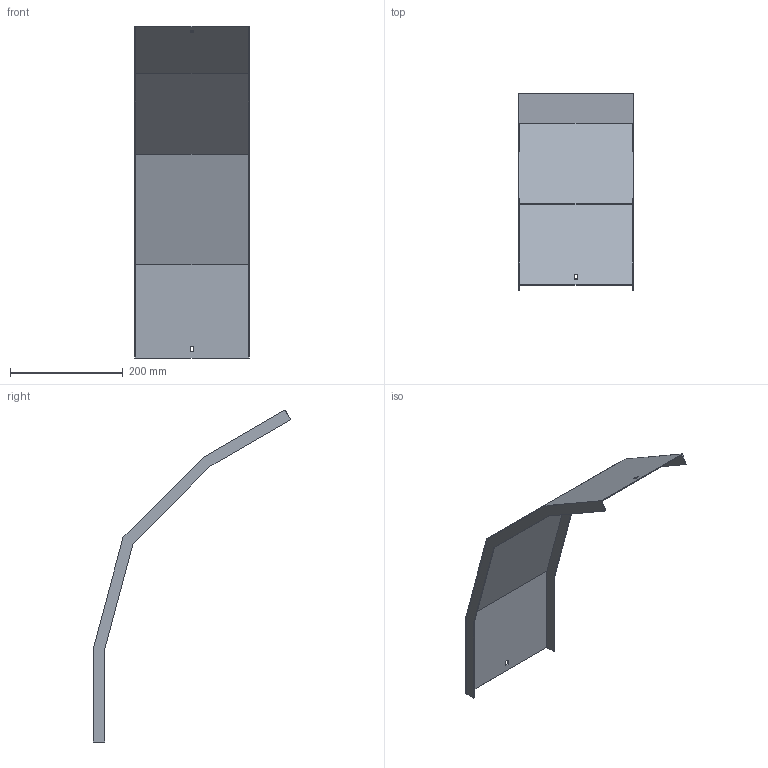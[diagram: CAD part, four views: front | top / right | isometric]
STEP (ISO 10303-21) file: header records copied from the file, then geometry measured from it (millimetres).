
FILE_DESCRIPTION (( 'STEP AP214' ), '1' );
FILE_NAME ('A2_41N3D200.step', '2025-02-21T10:39:56', ( '' ), ( '' ), 'SwSTEP 2.0', 'SolidWorks 2023', '' );
FILE_SCHEMA (( 'AUTOMOTIVE_DESIGN' ));
Length unit declared in the file: millimetre
Products named in the file (1): A2_41N3D200
Bounding box: 203 x 349.52 x 588.06 mm (x, y, z)
Volume: 264358 mm3; surface area: 355440.7 mm2
Topology: 1 solids, 1 shells, 30 faces, 84 edges, 56 vertices
Faces by surface type: plane 30
Entity records: 979 total; most frequent: CARTESIAN_POINT 171, ORIENTED_EDGE 168, DIRECTION 146, VECTOR 84, EDGE_CURVE 84, LINE 84, VERTEX_POINT 56, EDGE_LOOP 34
